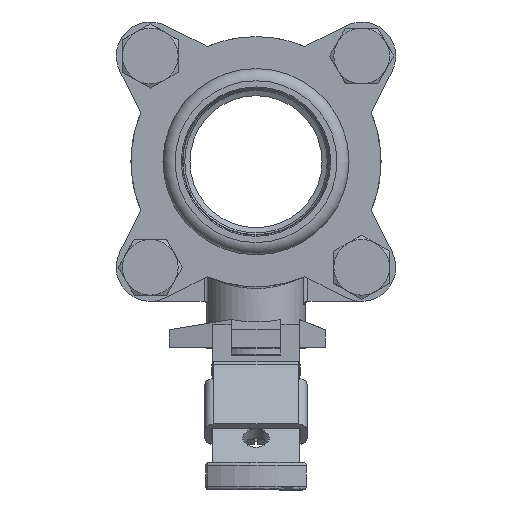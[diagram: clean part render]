
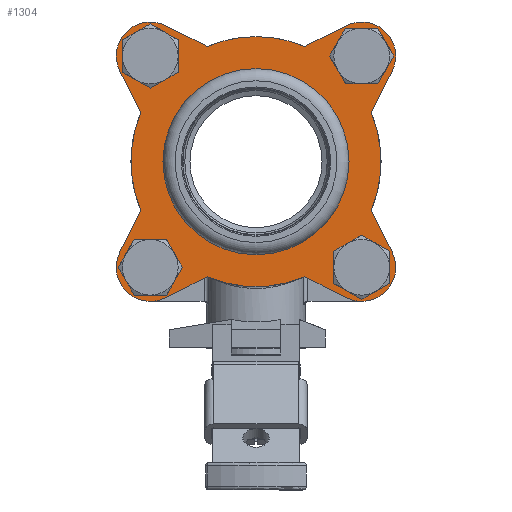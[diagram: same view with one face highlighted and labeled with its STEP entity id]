
A CAD part, left-side view. The second image highlights one B-rep face of the part: STEP entity #1304.
In plain terms, the highlighted planar face has unit normal (-1, 0, 0).
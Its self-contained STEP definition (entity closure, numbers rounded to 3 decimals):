
#1304=ADVANCED_FACE('',(#2659,#2660,#2661,#2662,#2663,#2664),#2665,.T.);
#2659=FACE_BOUND('',#4407,.T.);
#2660=FACE_BOUND('',#4408,.T.);
#2661=FACE_BOUND('',#4409,.T.);
#2662=FACE_BOUND('',#4410,.T.);
#2663=FACE_BOUND('',#4411,.T.);
#2664=FACE_OUTER_BOUND('',#4412,.T.);
#2665=PLANE('',#4413);
#4407=EDGE_LOOP('',(#7909));
#4408=EDGE_LOOP('',(#7910));
#4409=EDGE_LOOP('',(#7911));
#4410=EDGE_LOOP('',(#7912));
#4411=EDGE_LOOP('',(#7913));
#4412=EDGE_LOOP('',(#7914,#7915,#7916,#7917,#7918,#7919,#7920,#7921,#7922,#7923,#7924,#7925,#7926,#7927,#7928,#7929));
#4413=AXIS2_PLACEMENT_3D('',#7930,#7931,#7932);
#7909=ORIENTED_EDGE('',*,*,#11635,.T.);
#7910=ORIENTED_EDGE('',*,*,#11636,.F.);
#7911=ORIENTED_EDGE('',*,*,#11637,.F.);
#7912=ORIENTED_EDGE('',*,*,#11572,.F.);
#7913=ORIENTED_EDGE('',*,*,#11570,.F.);
#7914=ORIENTED_EDGE('',*,*,#11599,.F.);
#7915=ORIENTED_EDGE('',*,*,#11633,.F.);
#7916=ORIENTED_EDGE('',*,*,#11595,.F.);
#7917=ORIENTED_EDGE('',*,*,#11577,.F.);
#7918=ORIENTED_EDGE('',*,*,#11631,.F.);
#7919=ORIENTED_EDGE('',*,*,#11627,.F.);
#7920=ORIENTED_EDGE('',*,*,#11592,.F.);
#7921=ORIENTED_EDGE('',*,*,#11624,.F.);
#7922=ORIENTED_EDGE('',*,*,#11620,.F.);
#7923=ORIENTED_EDGE('',*,*,#11616,.F.);
#7924=ORIENTED_EDGE('',*,*,#11588,.F.);
#7925=ORIENTED_EDGE('',*,*,#11613,.F.);
#7926=ORIENTED_EDGE('',*,*,#11609,.F.);
#7927=ORIENTED_EDGE('',*,*,#11605,.F.);
#7928=ORIENTED_EDGE('',*,*,#11584,.F.);
#7929=ORIENTED_EDGE('',*,*,#11602,.F.);
#7930=CARTESIAN_POINT('',(-37.0,30.406,30.406));
#7931=DIRECTION('',(-1.0,0.0,0.0));
#7932=DIRECTION('',(0.0,0.0,-1.0));
#11570=EDGE_CURVE('',#13209,#13209,#13210,.T.);
#11572=EDGE_CURVE('',#13212,#13212,#13213,.T.);
#11577=EDGE_CURVE('',#13220,#13222,#13223,.T.);
#11584=EDGE_CURVE('',#13231,#13233,#13234,.T.);
#11588=EDGE_CURVE('',#13239,#13241,#13242,.T.);
#11592=EDGE_CURVE('',#13247,#13249,#13250,.T.);
#11595=EDGE_CURVE('',#13222,#13254,#13255,.T.);
#11599=EDGE_CURVE('',#13258,#13260,#13261,.T.);
#11602=EDGE_CURVE('',#13260,#13231,#13264,.T.);
#11605=EDGE_CURVE('',#13233,#13268,#13269,.T.);
#11609=EDGE_CURVE('',#13268,#13274,#13275,.T.);
#11613=EDGE_CURVE('',#13274,#13239,#13279,.T.);
#11616=EDGE_CURVE('',#13241,#13283,#13284,.T.);
#11620=EDGE_CURVE('',#13283,#13289,#13290,.T.);
#11624=EDGE_CURVE('',#13289,#13247,#13294,.T.);
#11627=EDGE_CURVE('',#13249,#13298,#13299,.T.);
#11631=EDGE_CURVE('',#13298,#13220,#13303,.T.);
#11633=EDGE_CURVE('',#13254,#13258,#13305,.T.);
#11635=EDGE_CURVE('',#13307,#13307,#13308,.F.);
#11636=EDGE_CURVE('',#13309,#13309,#13310,.T.);
#11637=EDGE_CURVE('',#13311,#13311,#13312,.T.);
#13209=VERTEX_POINT('',#15502);
#13210=CIRCLE('',#15503,5.25);
#13212=VERTEX_POINT('',#15505);
#13213=CIRCLE('',#15506,5.25);
#13220=VERTEX_POINT('',#15514);
#13222=VERTEX_POINT('',#15517);
#13223=LINE('',#15518,#15519);
#13231=VERTEX_POINT('',#15528);
#13233=VERTEX_POINT('',#15531);
#13234=CIRCLE('',#15532,36.0);
#13239=VERTEX_POINT('',#15538);
#13241=VERTEX_POINT('',#15541);
#13242=CIRCLE('',#15542,36.0);
#13247=VERTEX_POINT('',#15548);
#13249=VERTEX_POINT('',#15551);
#13250=CIRCLE('',#15552,36.0);
#13254=VERTEX_POINT('',#15557);
#13255=CIRCLE('',#15558,36.0);
#13258=VERTEX_POINT('',#15562);
#13260=VERTEX_POINT('',#15565);
#13261=CIRCLE('',#15566,9.8);
#13264=LINE('',#15570,#15571);
#13268=VERTEX_POINT('',#15576);
#13269=LINE('',#15577,#15578);
#13274=VERTEX_POINT('',#15584);
#13275=CIRCLE('',#15585,9.8);
#13279=LINE('',#15591,#15592);
#13283=VERTEX_POINT('',#15597);
#13284=LINE('',#15598,#15599);
#13289=VERTEX_POINT('',#15605);
#13290=CIRCLE('',#15606,9.8);
#13294=LINE('',#15612,#15613);
#13298=VERTEX_POINT('',#15618);
#13299=LINE('',#15619,#15620);
#13303=CIRCLE('',#15625,9.8);
#13305=LINE('',#15627,#15628);
#13307=VERTEX_POINT('',#15630);
#13308=CIRCLE('',#15631,24.75);
#13309=VERTEX_POINT('',#15632);
#13310=CIRCLE('',#15633,5.25);
#13311=VERTEX_POINT('',#15634);
#13312=CIRCLE('',#15635,5.25);
#15502=CARTESIAN_POINT('',(-37.0,30.406,35.656));
#15503=AXIS2_PLACEMENT_3D('',#19872,#19873,#19874);
#15505=CARTESIAN_POINT('',(-37.0,-30.406,35.656));
#15506=AXIS2_PLACEMENT_3D('',#19875,#19876,#19877);
#15514=CARTESIAN_POINT('',(-37.0,39.159,-25.999));
#15517=CARTESIAN_POINT('',(-37.0,33.144,-14.052));
#15518=CARTESIAN_POINT('',(-37.0,39.159,-25.999));
#15519=VECTOR('',#19883,1.0);
#15528=CARTESIAN_POINT('',(-37.0,14.052,33.144));
#15531=CARTESIAN_POINT('',(-37.0,-14.052,33.144));
#15532=AXIS2_PLACEMENT_3D('',#19892,#19893,#19894);
#15538=CARTESIAN_POINT('',(-37.0,-33.144,14.052));
#15541=CARTESIAN_POINT('',(-37.0,-33.144,-14.052));
#15542=AXIS2_PLACEMENT_3D('',#19900,#19901,#19902);
#15548=CARTESIAN_POINT('',(-37.0,-14.052,-33.144));
#15551=CARTESIAN_POINT('',(-37.0,14.052,-33.144));
#15552=AXIS2_PLACEMENT_3D('',#19908,#19909,#19910);
#15557=CARTESIAN_POINT('',(-37.0,33.144,14.052));
#15558=AXIS2_PLACEMENT_3D('',#19915,#19916,#19917);
#15562=CARTESIAN_POINT('',(-37.0,39.159,25.999));
#15565=CARTESIAN_POINT('',(-37.0,25.999,39.159));
#15566=AXIS2_PLACEMENT_3D('',#19920,#19921,#19922);
#15570=CARTESIAN_POINT('',(-37.0,25.999,39.159));
#15571=VECTOR('',#19924,1.0);
#15576=CARTESIAN_POINT('',(-37.0,-25.999,39.159));
#15577=CARTESIAN_POINT('',(-37.0,-14.052,33.144));
#15578=VECTOR('',#19926,1.0);
#15584=CARTESIAN_POINT('',(-37.0,-39.159,25.999));
#15585=AXIS2_PLACEMENT_3D('',#19931,#19932,#19933);
#15591=CARTESIAN_POINT('',(-37.0,-39.159,25.999));
#15592=VECTOR('',#19936,1.0);
#15597=CARTESIAN_POINT('',(-37.0,-39.159,-25.999));
#15598=CARTESIAN_POINT('',(-37.0,-33.144,-14.052));
#15599=VECTOR('',#19938,1.0);
#15605=CARTESIAN_POINT('',(-37.0,-25.999,-39.159));
#15606=AXIS2_PLACEMENT_3D('',#19943,#19944,#19945);
#15612=CARTESIAN_POINT('',(-37.0,-25.999,-39.159));
#15613=VECTOR('',#19948,1.0);
#15618=CARTESIAN_POINT('',(-37.0,25.999,-39.159));
#15619=CARTESIAN_POINT('',(-37.0,14.052,-33.144));
#15620=VECTOR('',#19950,1.0);
#15625=AXIS2_PLACEMENT_3D('',#19955,#19956,#19957);
#15627=CARTESIAN_POINT('',(-37.0,33.144,14.052));
#15628=VECTOR('',#19958,1.0);
#15630=CARTESIAN_POINT('',(-37.0,0.0,24.75));
#15631=AXIS2_PLACEMENT_3D('',#19959,#19960,#19961);
#15632=CARTESIAN_POINT('',(-37.0,30.406,-25.156));
#15633=AXIS2_PLACEMENT_3D('',#19962,#19963,#19964);
#15634=CARTESIAN_POINT('',(-37.0,-30.406,-25.156));
#15635=AXIS2_PLACEMENT_3D('',#19965,#19966,#19967);
#19872=CARTESIAN_POINT('',(-37.0,30.406,30.406));
#19873=DIRECTION('',(-1.0,0.0,0.0));
#19874=DIRECTION('',(0.0,0.0,1.0));
#19875=CARTESIAN_POINT('',(-37.0,-30.406,30.406));
#19876=DIRECTION('',(-1.0,0.0,0.0));
#19877=DIRECTION('',(0.0,0.0,1.0));
#19883=DIRECTION('',(0.0,-0.45,0.893));
#19892=CARTESIAN_POINT('',(-37.0,0.,0.));
#19893=DIRECTION('',(1.0,0.0,0.0));
#19894=DIRECTION('',(0.0,0.0,-1.0));
#19900=CARTESIAN_POINT('',(-37.0,0.,0.));
#19901=DIRECTION('',(1.0,0.0,0.0));
#19902=DIRECTION('',(0.0,0.0,-1.0));
#19908=CARTESIAN_POINT('',(-37.0,0.,0.));
#19909=DIRECTION('',(1.0,0.0,0.0));
#19910=DIRECTION('',(0.0,0.0,-1.0));
#19915=CARTESIAN_POINT('',(-37.0,0.,0.));
#19916=DIRECTION('',(1.0,0.0,0.0));
#19917=DIRECTION('',(0.0,0.0,-1.0));
#19920=CARTESIAN_POINT('',(-37.0,30.406,30.406));
#19921=DIRECTION('',(1.0,0.0,0.0));
#19922=DIRECTION('',(0.0,0.0,-1.0));
#19924=DIRECTION('',(0.0,-0.893,-0.45));
#19926=DIRECTION('',(0.0,-0.893,0.45));
#19931=CARTESIAN_POINT('',(-37.0,-30.406,30.406));
#19932=DIRECTION('',(1.0,0.0,0.0));
#19933=DIRECTION('',(0.0,0.0,-1.0));
#19936=DIRECTION('',(0.0,0.45,-0.893));
#19938=DIRECTION('',(0.0,-0.45,-0.893));
#19943=CARTESIAN_POINT('',(-37.0,-30.406,-30.406));
#19944=DIRECTION('',(1.0,0.0,0.0));
#19945=DIRECTION('',(0.0,0.0,-1.0));
#19948=DIRECTION('',(0.0,0.893,0.45));
#19950=DIRECTION('',(0.0,0.893,-0.45));
#19955=CARTESIAN_POINT('',(-37.0,30.406,-30.406));
#19956=DIRECTION('',(1.0,0.0,0.0));
#19957=DIRECTION('',(0.0,0.0,-1.0));
#19958=DIRECTION('',(0.0,0.45,0.893));
#19959=CARTESIAN_POINT('',(-37.0,0.0,0.));
#19960=DIRECTION('',(-1.0,0.0,0.0));
#19961=DIRECTION('',(0.0,0.0,1.0));
#19962=CARTESIAN_POINT('',(-37.0,30.406,-30.406));
#19963=DIRECTION('',(-1.0,0.0,0.0));
#19964=DIRECTION('',(0.0,0.0,1.0));
#19965=CARTESIAN_POINT('',(-37.0,-30.406,-30.406));
#19966=DIRECTION('',(-1.0,0.0,0.0));
#19967=DIRECTION('',(0.0,0.0,1.0));
